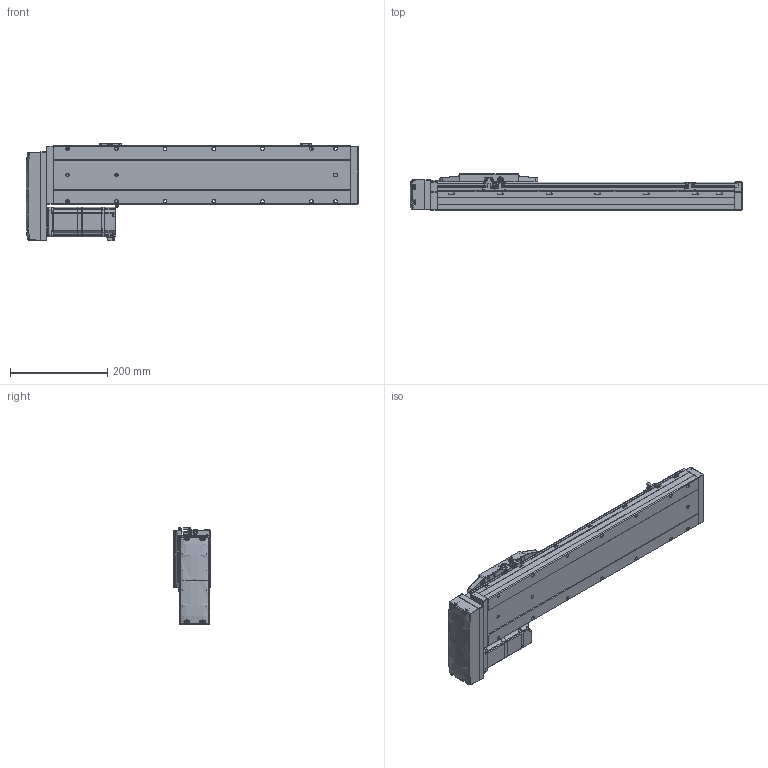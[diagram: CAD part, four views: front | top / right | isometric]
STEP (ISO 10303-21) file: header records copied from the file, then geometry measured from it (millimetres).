
FILE_DESCRIPTION (( 'STEP AP214' ), '1' );
FILE_NAME ('CTH12-L10-S400-BR-C40（简）.STEP', '2023-02-04T07:07:07', ( '' ), ( '' ), 'SwSTEP 2.0', 'SolidWorks 2018', '' );
FILE_SCHEMA (( 'AUTOMOTIVE_DESIGN' ));
Length unit declared in the file: millimetre
Products named in the file (24): CTH400W垫板（3个厚）; 内六角圆柱头螺钉M3-2; 湮賑怢  裔赽-1(CTH12)賑怢; CTH12; 嫖萇羲壽郪磁2; CTH12侧装连接板（标准）简; CTH12_body_3; 蚐郲; CTH12賑怢郪磁; hex nuts, style 1-grades ab gb_GB_FASTENER_NUT_SNAB1 M3-N; CTH12底座-L611简（400行程）; CTH12賑怢ㄗ潠ㄘ; 嫖萇羲壽郪磁1; CTH12-BL_body_4; CTH嫖萇羲壽假蚾啣; CTH12-L10-S400-BR-C40（简）; CTH12耜蚾裔; CTH400W假蚾啣; CTH12覜茼え; M5蹟隊; PM-Y45; 内六角圆柱头螺钉M3; AC60_Valor predeterminado; 内六角圆柱头螺钉M3-1
Assembly tree (44 placements, depth 4):
  CTH12-L10-S400-BR-C40（简）
    CTH12底座-L611简（400行程）
    蚐郲  x2
    CTH12_body_3
    CTH12-BL_body_4
    CTH12侧装连接板（标准）简
    CTH12耜蚾裔
    CTH12賑怢郪磁
      CTH12
        湮賑怢  裔赽-1(CTH12)賑怢
        CTH12賑怢ㄗ潠ㄘ
    CTH12覜茼え
    嫖萇羲壽郪磁1  x2
      CTH嫖萇羲壽假蚾啣
      PM-Y45
      内六角圆柱头螺钉M3-2
      内六角圆柱头螺钉M3-1
      hex nuts, style 1-grades ab gb_GB_FASTENER_NUT_SNAB1 M3-N
    嫖萇羲壽郪磁2
      CTH嫖萇羲壽假蚾啣
      PM-Y45
      内六角圆柱头螺钉M3-1  x2
      内六角圆柱头螺钉M3-2  x2
      hex nuts, style 1-grades ab gb_GB_FASTENER_NUT_SNAB1 M3-N  x2
    CTH400W垫板（3个厚）
    AC60_Valor predeterminado
    内六角圆柱头螺钉M3  x6
    M5蹟隊  x4
    CTH400W假蚾啣
Bounding box: 681.5 x 76 x 201.06 mm (x, y, z)
Volume: 4993327.9 mm3; surface area: 536415.4 mm2
Topology: 47 solids, 48 shells, 2741 faces, 6982 edges, 4459 vertices
Faces by surface type: plane 1503, cylinder 771, cone 319, bspline 96, torus 52
Entity records: 78925 total; most frequent: CARTESIAN_POINT 21558, ORIENTED_EDGE 11144, DIRECTION 10827, EDGE_CURVE 5572, AXIS2_PLACEMENT_3D 3656, VERTEX_POINT 3563, LINE 3515, VECTOR 3515
